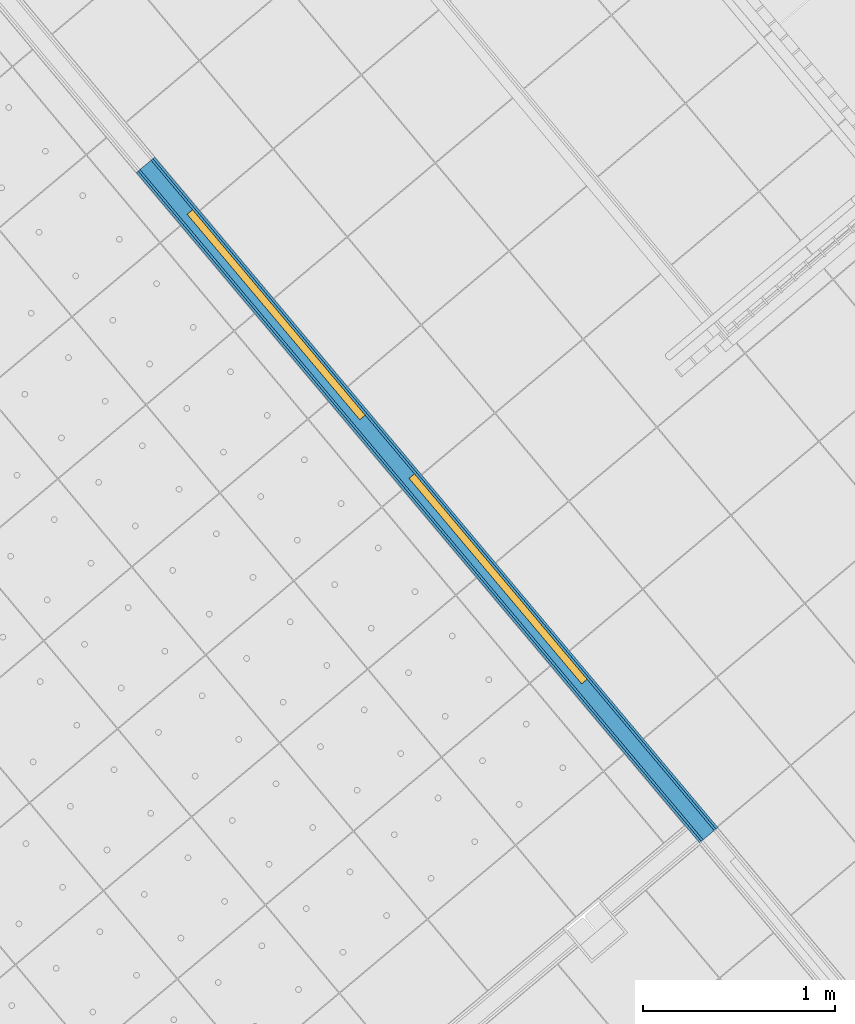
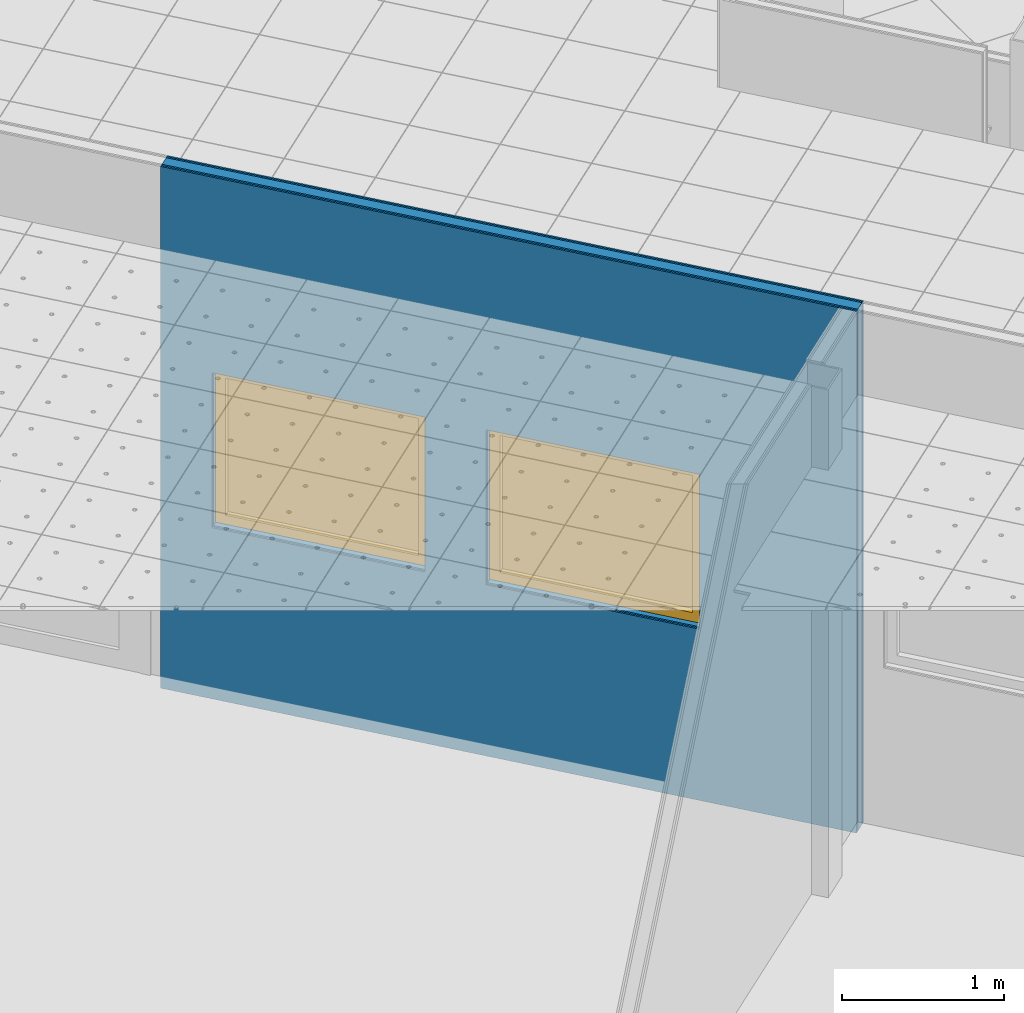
# One storey, part 43 of 321: 5 building element parts, 2 windows, 2 openings, 1 element without a shape of its own.
"""IFC2X3 building model written with IfcOpenShell, lengths in millimetres."""

from ifc_helpers import new_model, entity, si_unit, converted_unit, derived_unit, money_unit, direction, frame, origin_with_axes, place, context, subcontext, project, spatial, open_shell, faceted_brep, surface_model, source, transform, mapped, material, type_object, type_shapes, element, fill, aggregate, save


model = new_model("IFC2X3")

# Units and contexts
model_context = context("Model", 3, precision=0.01, world=origin_with_axes(), true_north=direction((0.0, 1.0)))
plan_context = context("Plan", 3, precision=0.01, world=origin_with_axes(), true_north=direction((0.0, 1.0)))
body_context = subcontext(model_context, "Body", "Model", "MODEL_VIEW")
ifc_project = project(units=[si_unit("LENGTHUNIT", "METRE", prefix="MILLI"), si_unit("AREAUNIT", "SQUARE_METRE"), si_unit("VOLUMEUNIT", "CUBIC_METRE"), converted_unit("PLANEANGLEUNIT", "DEGREE", entity("IfcPlaneAngleMeasure", 0.0174532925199), si_unit("PLANEANGLEUNIT", "RADIAN"), dimensions=[0, 0, 0, 0, 0, 0, 0]), money_unit("EUR"), converted_unit("TIMEUNIT", "Year", entity("IfcTimeMeasure", 31556926.0), si_unit("TIMEUNIT", "SECOND"), dimensions=[0, 0, 1, 0, 0, 0, 0]), si_unit("MASSUNIT", "GRAM", prefix="KILO"), si_unit("THERMODYNAMICTEMPERATUREUNIT", "DEGREE_CELSIUS"), si_unit("LUMINOUSINTENSITYUNIT", "LUMEN"), si_unit("ENERGYUNIT", "JOULE", prefix="MEGA"), derived_unit("THERMALCONDUCTANCEUNIT", [(si_unit("POWERUNIT", "WATT"), 1), (si_unit("LENGTHUNIT", "METRE"), -1), (si_unit("THERMODYNAMICTEMPERATUREUNIT", "KELVIN"), -1)]), derived_unit("SPECIFICHEATCAPACITYUNIT", [(si_unit("ENERGYUNIT", "JOULE"), 1), (si_unit("MASSUNIT", "GRAM", prefix="KILO"), -1), (si_unit("THERMODYNAMICTEMPERATUREUNIT", "KELVIN"), -1)]), derived_unit("MASSDENSITYUNIT", [(si_unit("MASSUNIT", "GRAM", prefix="KILO"), 1), (si_unit("VOLUMEUNIT", "CUBIC_METRE"), -1)])], contexts=[model_context, plan_context])

# Site, building, storey
site_placement = place(None, origin_with_axes())
site = spatial("IfcSite", under=ifc_project, at=site_placement, Name="Fortuinstraat Woensdrecht", CompositionType="ELEMENT")
building_placement = place(site_placement, origin_with_axes())
building = spatial("IfcBuilding", under=site, at=building_placement, Name="IKC Fortuna", CompositionType="ELEMENT")
storey_placement = place(building_placement, frame((0.0, 0.0, 4000.0), z_axis=(0.0, 0.0, 1.0), x_axis=(1.0, 0.0, 0.0)))
storey = spatial("IfcBuildingStorey", under=building, at=storey_placement, Name="01 eerste verdieping", CompositionType="ELEMENT", Elevation=4000.0)

# Window
window_style = type_object("IfcWindowStyle", Name="R1 25", ConstructionType="NOTDEFINED", OperationType="SINGLE_PANEL", ParameterTakesPrecedence=False, Sizeable=False)
shared_shape = source(origin_with_axes(), body_context, "Body", "SurfaceModel", [
    faceted_brep([(-633.0, -62.0, 1100.0), (-633.0, 0.0, 1100.0), (-700.0, 0.0, 1100.0), (-700.0, -62.0, 1100.0), (-633.0, -62.0, 67.0), (-633.0, 0.0, 67.0), (-700.0, 0.0, 67.0), (-700.0, -62.0, 67.0)], [[[0, 1, 2, 3]], [[4, 5, 1, 0]], [[1, 5, 6, 2]], [[3, 2, 6, 7]], [[0, 3, 7, 4]], [[7, 6, 5, 4]]]),
    faceted_brep([(633.0, -62.0, 67.0), (633.0, 0.0, 67.0), (700.0, 0.0, 67.0), (700.0, -62.0, 67.0), (633.0, -62.0, 1100.0), (633.0, 0.0, 1100.0), (700.0, 0.0, 1100.0), (700.0, -62.0, 1100.0)], [[[0, 1, 2, 3]], [[4, 5, 1, 0]], [[1, 5, 6, 2]], [[3, 2, 6, 7]], [[0, 3, 7, 4]], [[7, 6, 5, 4]]]),
    faceted_brep([(-633.0, -62.0, 67.0), (-633.0, 0.0, 67.0), (-700.0, 0.0, 67.0), (-700.0, -62.0, 67.0), (633.0, -62.0, 67.0), (633.0, 0.0, 67.0), (700.0, 0.0, 67.0), (700.0, 0.0, 0.0), (-700.0, 0.0, 0.0), (-700.0, -62.0, 0.0), (700.0, -62.0, 0.0), (700.0, -62.0, 67.0)], [[[0, 1, 2, 3]], [[4, 5, 1, 0]], [[1, 5, 6, 7, 8, 2]], [[3, 2, 8, 9]], [[0, 3, 9, 10, 11, 4]], [[11, 6, 5, 4]], [[10, 7, 6, 11]], [[9, 8, 7, 10]]]),
    faceted_brep([(633.0, -62.0, 1100.0), (633.0, 0.0, 1100.0), (700.0, 0.0, 1100.0), (700.0, -62.0, 1100.0), (-633.0, -62.0, 1100.0), (-633.0, 0.0, 1100.0), (-700.0, 0.0, 1100.0), (-700.0, 0.0, 1167.0), (700.0, 0.0, 1167.0), (700.0, -62.0, 1167.0), (-700.0, -62.0, 1167.0), (-700.0, -62.0, 1100.0)], [[[0, 1, 2, 3]], [[4, 5, 1, 0]], [[1, 5, 6, 7, 8, 2]], [[3, 2, 8, 9]], [[0, 3, 9, 10, 11, 4]], [[11, 6, 5, 4]], [[10, 7, 6, 11]], [[9, 8, 7, 10]]]),
    surface_model("IfcShellBasedSurfaceModel", [(-633.0, -64.0, 67.0), (633.0, -64.0, 67.0), (633.0, -64.0, 1100.0), (-633.0, -64.0, 1100.0)], [open_shell([[[0, 1, 2, 3]]])]),
    surface_model("IfcShellBasedSurfaceModel", [(-633.0, -44.0, 67.0), (-633.0, -44.0, 1100.0), (633.0, -44.0, 1100.0), (633.0, -44.0, 67.0)], [open_shell([[[0, 1, 2, 3]]])]),
])
type_shapes(window_style, [shared_shape])
wall_placement = place(storey_placement, frame((16629.0497633, 905.250375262, 1360.0), z_axis=(0.0, 0.0, 1.0), x_axis=(0.643297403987, -0.765616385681, 0.0)))
opening_1_placement = place(wall_placement, frame((2837.45840915, 0.0, 1290.0), z_axis=(0.0, 0.0, 1.0), x_axis=(1.0, 0.0, 0.0)))
window_1_placement = place(opening_1_placement, frame((700.0, 0.0, 0.0), z_axis=(0.0, 0.0, 1.0), x_axis=(-1.0, 0.0, 0.0)))
window_1 = element("IfcWindow", 1, at=window_1_placement, inside=storey, type_object=window_style, Name="32_Raam_h.05", ObjectType="WINDOW", OverallHeight=1167.0, OverallWidth=1400.0, context=body_context, shape_type="MappedRepresentation", body=[
    mapped(shared_shape, transform((700.0, -0.500000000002, 0.0))),
])

opening_2_placement = place(wall_placement, frame((1037.45840915, 0.0, 1290.0), z_axis=(0.0, 0.0, 1.0), x_axis=(1.0, 0.0, 0.0)))
window_2_placement = place(opening_2_placement, frame((700.0, 0.0, 0.0), z_axis=(0.0, 0.0, 1.0), x_axis=(-1.0, 0.0, 0.0)))
window_2 = element("IfcWindow", 2, at=window_2_placement, inside=storey, type_object=window_style, Name="32_Raam_h.05", ObjectType="WINDOW", OverallHeight=1167.0, OverallWidth=1400.0, context=body_context, shape_type="MappedRepresentation", body=[
    mapped(shared_shape, transform((700.0, -0.500000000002, 0.0))),
])

# Wall, opening
wall_type = type_object("IfcWallType", Name="MS125 2.75.2A 125", PredefinedType="NOTDEFINED")
wall = element("IfcWall", 3, at=wall_placement, inside=storey, type_object=wall_type, Name="22_Wand_Binnenwand")
opening_1 = element("IfcOpeningElement", 4, at=opening_1_placement, cuts=wall, Name="32_Raam_h.05", context=body_context, shape_type="Brep", body=[
    faceted_brep([(-700.0, -125.0, 0.0), (-700.0, -125.0, 1167.0), (-700.0, 250.0, 1167.0), (-700.0, 250.0, 0.0), (700.0, -125.0, 0.0), (700.0, -125.0, 1167.0), (700.0, 250.0, 1167.0), (700.0, 250.0, 0.0)], [[[0, 1, 2, 3]], [[0, 4, 5, 1]], [[1, 5, 6, 2]], [[3, 2, 6, 7]], [[4, 0, 3, 7]], [[5, 4, 7, 6]]]),
])

fill(opening_1, window_1)

# Opening
opening_2 = element("IfcOpeningElement", 5, at=opening_2_placement, cuts=wall, Name="32_Raam_h.05", context=body_context, shape_type="Brep", body=[
    faceted_brep([(-700.0, -125.0, 0.0), (-700.0, -125.0, 1167.0), (-700.0, 250.0, 1167.0), (-700.0, 250.0, 0.0), (700.0, -125.0, 0.0), (700.0, -125.0, 1167.0), (700.0, 250.0, 1167.0), (700.0, 250.0, 0.0)], [[[0, 1, 2, 3]], [[0, 4, 5, 1]], [[1, 5, 6, 2]], [[3, 2, 6, 7]], [[4, 0, 3, 7]], [[5, 4, 7, 6]]]),
])

fill(opening_2, window_2)

# Building element part
ifc_material_1 = material(Name="Gipsplaat")
building_element_part_1_placement = place(wall_placement, origin_with_axes())
building_element_part_1 = element("IfcBuildingElementPart", 6, at=building_element_part_1_placement, material=ifc_material_1, Name="Gipsplaat", context=body_context, shape_type="Brep", body=[
    faceted_brep([(4568.51588311, 50.0, 0.0), (4568.51588311, 50.0, 3930.0), (0.016641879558, 50.0, 3930.0), (0.0166418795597, 50.0, 0.0), (2137.45840915, 50.0, 2457.0), (3537.45840915, 50.0, 2457.0), (3537.45840915, 50.0, 1290.0), (2137.45840915, 50.0, 1290.0), (337.458409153, 50.0, 1290.0), (337.458409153, 50.0, 2457.0), (1737.45840915, 50.0, 2457.0), (1737.45840915, 50.0, 1290.0), (4568.51588311, 62.5, 3930.0), (4568.51588311, 62.5, 0.0), (0.0208023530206, 62.5000107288, 3930.0), (0.0208023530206, 62.5000107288, 0.0), (3537.45840915, 62.5000107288, 2457.0), (2137.45840915, 62.5000107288, 2457.0), (3537.45840915, 62.5000107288, 1290.0), (2137.45840915, 62.5000107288, 1290.0), (337.458409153, 62.5000107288, 1290.0), (337.458409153, 62.5000107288, 2457.0), (1737.45840915, 62.5000107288, 2457.0), (1737.45840915, 62.5000107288, 1290.0)], [[[0, 1, 2, 3], [4, 5, 6, 7], [8, 9, 10, 11]], [[12, 1, 0, 13]], [[1, 12, 14, 2]], [[15, 3, 2, 14]], [[13, 0, 3, 15]], [[16, 5, 4, 17]], [[18, 6, 5, 16]], [[19, 7, 6, 18]], [[17, 4, 7, 19]], [[20, 21, 9, 8]], [[21, 22, 10, 9]], [[22, 23, 11, 10]], [[23, 20, 8, 11]], [[12, 13, 15, 14], [18, 16, 17, 19], [20, 23, 22, 21]]]),
])

building_element_part_2_placement = place(wall_placement, origin_with_axes())
building_element_part_2 = element("IfcBuildingElementPart", 7, at=building_element_part_2_placement, material=ifc_material_1, Name="Gipsplaat", context=body_context, shape_type="Brep", body=[
    faceted_brep([(4568.51588311, 37.5, 0.0), (4568.51588311, 37.5, 3930.0), (0.0124814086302, 37.4999968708, 3930.0), (0.0124814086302, 37.4999968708, 0.0), (2137.45840915, 37.4999968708, 2457.0), (3537.45840915, 37.4999968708, 2457.0), (3537.45840915, 37.4999968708, 1290.0), (2137.45840915, 37.4999968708, 1290.0), (337.458409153, 37.4999968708, 1290.0), (337.458409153, 37.4999968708, 2457.0), (1737.45840915, 37.4999968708, 2457.0), (1737.45840915, 37.4999968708, 1290.0), (4568.51588311, 50.0, 3930.0), (4568.51588311, 50.0, 0.0), (0.0166418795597, 50.0, 3930.0), (0.0166418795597, 50.0, 0.0), (3537.45840915, 50.0, 2457.0), (2137.45840915, 50.0, 2457.0), (3537.45840915, 50.0, 1290.0), (2137.45840915, 50.0, 1290.0), (337.458409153, 50.0, 1290.0), (337.458409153, 50.0, 2457.0), (1737.45840915, 50.0, 2457.0), (1737.45840915, 50.0, 1290.0)], [[[0, 1, 2, 3], [4, 5, 6, 7], [8, 9, 10, 11]], [[12, 1, 0, 13]], [[1, 12, 14, 2]], [[15, 3, 2, 14]], [[13, 0, 3, 15]], [[16, 5, 4, 17]], [[18, 6, 5, 16]], [[19, 7, 6, 18]], [[17, 4, 7, 19]], [[20, 21, 9, 8]], [[21, 22, 10, 9]], [[22, 23, 11, 10]], [[23, 20, 8, 11]], [[12, 13, 15, 14], [18, 16, 17, 19], [20, 23, 22, 21]]]),
])

ifc_material_2 = material(Name="Isolatie - Steenwol LSW")
building_element_part_3_placement = place(wall_placement, origin_with_axes())
building_element_part_3 = element("IfcBuildingElementPart", 8, at=building_element_part_3_placement, material=ifc_material_2, Name="Isolatie - Steenwol LSW", context=body_context, shape_type="Brep", body=[
    faceted_brep([(4568.51588311, -37.5, 0.0), (4568.51588311, -37.5, 3930.0), (-0.0124814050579, -37.4999861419, 3930.0), (-0.0124814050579, -37.4999861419, 0.0), (2137.45840915, -37.4999861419, 2457.0), (3537.45840915, -37.4999861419, 2457.0), (3537.45840915, -37.4999861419, 1290.0), (2137.45840915, -37.4999861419, 1290.0), (337.458409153, -37.4999861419, 1290.0), (337.458409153, -37.4999861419, 2457.0), (1737.45840915, -37.4999861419, 2457.0), (1737.45840915, -37.4999861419, 1290.0), (4568.51588311, 37.5, 3930.0), (4568.51588311, 37.5, 0.0), (0.0124814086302, 37.4999968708, 3930.0), (0.0124814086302, 37.4999968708, 0.0), (3537.45840915, 37.4999968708, 2457.0), (2137.45840915, 37.4999968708, 2457.0), (3537.45840915, 37.4999968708, 1290.0), (2137.45840915, 37.4999968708, 1290.0), (337.458409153, 37.4999968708, 1290.0), (337.458409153, 37.4999968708, 2457.0), (1737.45840915, 37.4999968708, 2457.0), (1737.45840915, 37.4999968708, 1290.0)], [[[0, 1, 2, 3], [4, 5, 6, 7], [8, 9, 10, 11]], [[12, 1, 0, 13]], [[1, 12, 14, 2]], [[15, 3, 2, 14]], [[13, 0, 3, 15]], [[16, 5, 4, 17]], [[18, 6, 5, 16]], [[19, 7, 6, 18]], [[17, 4, 7, 19]], [[20, 21, 9, 8]], [[21, 22, 10, 9]], [[22, 23, 11, 10]], [[23, 20, 8, 11]], [[12, 13, 15, 14], [18, 16, 17, 19], [20, 23, 22, 21]]]),
])

building_element_part_4_placement = place(wall_placement, origin_with_axes())
building_element_part_4 = element("IfcBuildingElementPart", 9, at=building_element_part_4_placement, material=ifc_material_1, Name="Gipsplaat", context=body_context, shape_type="Brep", body=[
    faceted_brep([(4568.51588311, -50.0, 0.0), (4568.51588311, -50.0, 3930.0), (-0.016641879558, -50.0, 3930.0), (-0.016641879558, -50.0, 0.0), (2137.45840915, -50.0, 2457.0), (3537.45840915, -50.0, 2457.0), (3537.45840915, -50.0, 1290.0), (2137.45840915, -50.0, 1290.0), (337.458409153, -50.0, 1290.0), (337.458409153, -50.0, 2457.0), (1737.45840915, -50.0, 2457.0), (1737.45840915, -50.0, 1290.0), (4568.51588311, -37.5, 0.0), (4568.51588311, -37.5, 3930.0), (-0.0124814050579, -37.4999861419, 3930.0), (-0.0124814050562, -37.4999861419, 0.0), (3537.45840915, -37.4999861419, 2457.0), (2137.45840915, -37.4999861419, 2457.0), (3537.45840915, -37.4999861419, 1290.0), (2137.45840915, -37.4999861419, 1290.0), (337.458409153, -37.4999861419, 1290.0), (337.458409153, -37.4999861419, 2457.0), (1737.45840915, -37.4999861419, 2457.0), (1737.45840915, -37.4999861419, 1290.0)], [[[0, 1, 2, 3], [4, 5, 6, 7], [8, 9, 10, 11]], [[0, 12, 13, 1]], [[1, 13, 14, 2]], [[15, 3, 2, 14]], [[12, 0, 3, 15]], [[16, 5, 4, 17]], [[18, 6, 5, 16]], [[19, 7, 6, 18]], [[17, 4, 7, 19]], [[20, 21, 9, 8]], [[21, 22, 10, 9]], [[22, 23, 11, 10]], [[23, 20, 8, 11]], [[13, 12, 15, 14], [18, 16, 17, 19], [20, 23, 22, 21]]]),
])

building_element_part_5_placement = place(wall_placement, origin_with_axes())
building_element_part_5 = element("IfcBuildingElementPart", 10, at=building_element_part_5_placement, material=ifc_material_1, Name="Gipsplaat", context=body_context, shape_type="Brep", body=[
    faceted_brep([(4568.51588311, -62.5, 0.0), (4568.51588311, -62.5, 3930.0), (-0.0208023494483, -62.5, 3930.0), (-0.0208023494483, -62.5, 0.0), (2137.45840915, -62.5, 2457.0), (3537.45840915, -62.5, 2457.0), (3537.45840915, -62.5, 1290.0), (2137.45840915, -62.5, 1290.0), (337.458409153, -62.5, 1290.0), (337.458409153, -62.5, 2457.0), (1737.45840915, -62.5, 2457.0), (1737.45840915, -62.5, 1290.0), (4568.51588311, -50.0, 0.0), (4568.51588311, -50.0, 3930.0), (-0.0166418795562, -50.0, 3930.0), (-0.016641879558, -50.0, 0.0), (3537.45840915, -50.0, 2457.0), (2137.45840915, -50.0, 2457.0), (3537.45840915, -50.0, 1290.0), (2137.45840915, -50.0, 1290.0), (337.458409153, -50.0, 1290.0), (337.458409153, -50.0, 2457.0), (1737.45840915, -50.0, 2457.0), (1737.45840915, -50.0, 1290.0)], [[[0, 1, 2, 3], [4, 5, 6, 7], [8, 9, 10, 11]], [[0, 12, 13, 1]], [[1, 13, 14, 2]], [[15, 3, 2, 14]], [[12, 0, 3, 15]], [[16, 5, 4, 17]], [[18, 6, 5, 16]], [[19, 7, 6, 18]], [[17, 4, 7, 19]], [[20, 21, 9, 8]], [[21, 22, 10, 9]], [[22, 23, 11, 10]], [[23, 20, 8, 11]], [[13, 12, 15, 14], [18, 16, 17, 19], [20, 23, 22, 21]]]),
])

aggregate(wall, [building_element_part_1, building_element_part_2, building_element_part_3, building_element_part_4, building_element_part_5])

save(model, "model.ifc")
